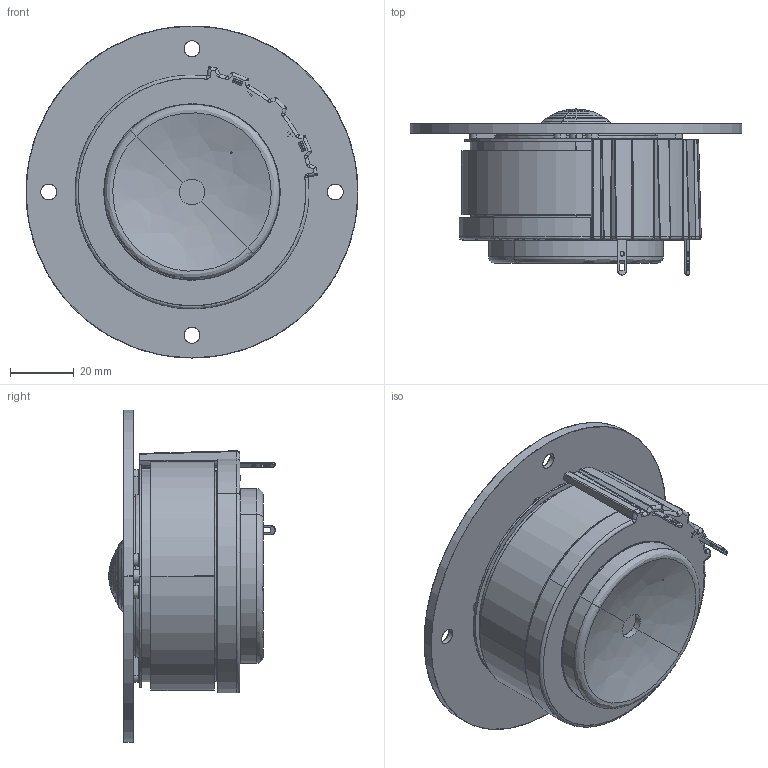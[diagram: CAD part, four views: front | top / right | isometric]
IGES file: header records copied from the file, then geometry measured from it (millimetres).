
Start section: SolidWorks IGES file using analytic representation for surfaces
Global section: file name: W:\TT\WEB 3D enheder\WEB D2904_950000\D2904-950000.IGS; native system: SolidWorks 2019; preprocessor: SolidWorks 2019; author: mhn; date: 201020.093758; units: millimetre
Bounding box: 104.3 x 52.27 x 104.3 mm (x, y, z)
Surface area: 42542 mm2 (no closed solid volume)
Topology: 0 solids, 0 shells, 487 faces, 6861 edges, 6843 vertices
Faces by surface type: bspline 285, revolution 202
